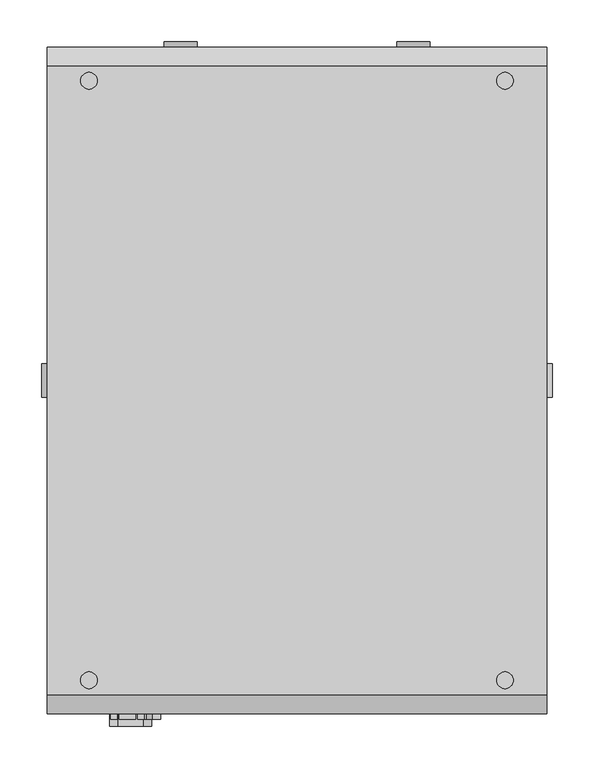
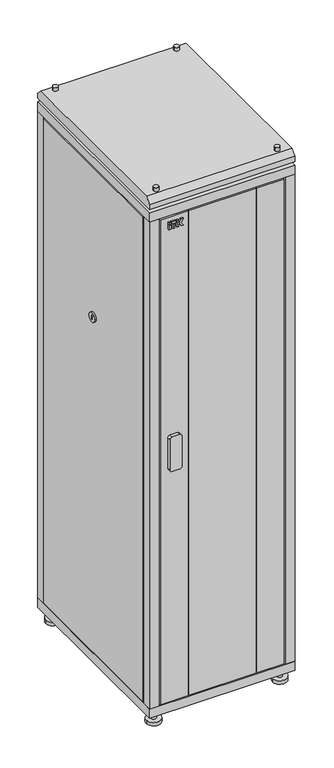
"""IFC4 building model written with IfcOpenShell, lengths in millimetres: proxy geometry, Шкафы ITK серия N_05 : LN05-47U68-G."""

from ifc_helpers import new_model, si_unit, point, frame, frame_2d, origin, origin_with_axes, place, context, project, spatial, polyline, circle_curve, trimmed, segment, composite_curve, outline, extrude, faceted_brep, source, transform, mapped, element, save
from ifc_brep_helpers import plane_surface, cylinder_surface, advanced_brep


def electrical_fixtures_ca1bb77e(model_context):
    return source(origin(), model_context, "Body", "SolidModel", [
        extrude(outline(polyline([(-215.9746193, -407.0), (-224.197592, -407.0), (-224.197592, -400.0), (-215.9746193, -400.0), (-215.9746193, -407.0)])), frame((0.0, 0.0, 2157.0), z_axis=(0.0, 0.0, 1.0), x_axis=(1.0, 0.0, 0.0)), (0.0, 0.0, 1.0), 18.8087618),
        extrude(outline(polyline([(-199.9605777, -407.0), (-207.7053315, -407.0), (-207.7053315, -400.0), (-199.9605777, -400.0), (-199.9605777, -407.0)])), frame((0.0, 0.0, 2157.0), z_axis=(0.0, 0.0, 1.0), x_axis=(1.0, 0.0, 0.0)), (0.0, 0.0, 1.0), 18.8087618),
        extrude(outline(polyline([(-215.9746193, -407.0), (-224.197592, -407.0), (-224.197592, -400.0), (-215.9746193, -400.0), (-215.9746193, -407.0)])), frame((0.0, 0.0, 2178.4305892), z_axis=(0.0, 0.0, 1.0), x_axis=(1.0, 0.0, 0.0)), (0.0, 0.0, 1.0), 7.9794747),
        extrude(outline(polyline([(2157.0, -191.5184175), (2157.0, -183.7669278), (2168.0271455, -183.7669278), (2168.0271455, -180.8031229), (2157.0, -173.6420108), (2157.0, -164.197592), (2171.7278745, -174.8980192), (2186.410064, -164.197592), (2186.410064, -173.6420108), (2175.3829184, -180.8031229), (2175.3829184, -183.7669278), (2186.410064, -183.7669278), (2186.410064, -191.5184175), (2157.0, -191.5184175)])), frame((0.0, -407.0, 0.0), z_axis=(0.0, 1.0, 0.0), x_axis=(0.0, 0.0, 1.0)), (0.0, 0.0, 1.0), 7.0),
        extrude(outline(polyline([(-194.0851324, -407.0), (-213.5807768, -407.0), (-213.5807768, -400.0), (-194.0851324, -400.0), (-194.0851324, -407.0)])), frame((0.0, 0.0, 2178.4305892), z_axis=(0.0, 0.0, 1.0), x_axis=(1.0, 0.0, 0.0)), (0.0, 0.0, 1.0), 7.9794747),
        extrude(outline(composite_curve([segment(polyline([(1256.0, -185.0), (1256.0, -215.0)]), True, "CONTINUOUS"), segment(trimmed(circle_curve(frame_2d((1246.0, -215.0)), 10.0), [point((1256.0, -215.0))], [point((1246.0, -225.0))], False, "CARTESIAN"), True, "CONTINUOUS"), segment(polyline([(1246.0, -225.0), (1116.0, -225.0)]), True, "CONTINUOUS"), segment(trimmed(circle_curve(frame_2d((1116.0, -215.0)), 10.0), [point((1116.0, -225.0))], [point((1106.0, -215.0))], False, "CARTESIAN"), True, "CONTINUOUS"), segment(polyline([(1106.0, -215.0), (1106.0, -185.0)]), True, "CONTINUOUS"), segment(trimmed(circle_curve(frame_2d((1116.0, -185.0)), 10.0), [point((1106.0, -185.0))], [point((1116.0, -175.0))], False, "CARTESIAN"), True, "CONTINUOUS"), segment(polyline([(1116.0, -175.0), (1246.0, -175.0)]), True, "CONTINUOUS"), segment(trimmed(circle_curve(frame_2d((1246.0, -185.0)), 10.0), [point((1246.0, -175.0))], [point((1256.0, -185.0))], False, "CARTESIAN"), True, "CONTINUOUS")], self_intersect=False)), frame((0.0, -415.0, 0.0), z_axis=(0.0, 1.0, 0.0), x_axis=(0.0, 0.0, 1.0)), (0.0, 0.0, 1.0), 15.0),
        extrude(outline(polyline([(140.0, -380.0), (140.0, -400.0), (-140.0, -400.0), (-140.0, -380.0), (140.0, -380.0)])), frame((0.0, 0.0, 95.0), z_axis=(0.0, 0.0, 1.0), x_axis=(1.0, 0.0, 0.0)), (0.0, 0.0, 1.0), 2112.0),
        extrude(outline(polyline([(255.0, -380.0), (255.0, -400.0), (140.0, -400.0), (140.0, -380.0), (235.0, -380.0), (235.0, -365.0), (245.0, -365.0), (245.0, -380.0), (255.0, -380.0)])), frame((0.0, 0.0, 95.0), z_axis=(0.0, 0.0, 1.0), x_axis=(1.0, 0.0, 0.0)), (0.0, 0.0, 1.0), 2112.0),
        extrude(outline(polyline([(-140.0, -400.0), (-255.0, -400.0), (-255.0, -380.0), (-245.0, -380.0), (-245.0, -365.0), (-235.0, -365.0), (-235.0, -380.0), (-140.0, -380.0), (-140.0, -400.0)])), frame((0.0, 0.0, 95.0), z_axis=(0.0, 0.0, 1.0), x_axis=(1.0, 0.0, 0.0)), (0.0, 0.0, 1.0), 2112.0),
        extrude(outline(composite_curve([segment(trimmed(circle_curve(frame_2d((-260.0, 360.0)), 10.0), [point((-250.0, 360.0))], [point((-270.0, 360.0))], False, "CARTESIAN"), True, "CONTINUOUS"), segment(trimmed(circle_curve(frame_2d((-260.0, 360.0)), 10.0), [point((-270.0, 360.0))], [point((-250.0, 360.0))], False, "CARTESIAN"), True, "CONTINUOUS")], self_intersect=False)), frame((0.0, 0.0, 15.0), z_axis=(0.0, 0.0, 1.0), x_axis=(1.0, 0.0, 0.0)), (0.0, 0.0, 1.0), 35.0),
        extrude(outline(composite_curve([segment(trimmed(circle_curve(frame_2d((260.0, 360.0)), 10.0), [point((270.0, 360.0))], [point((250.0, 360.0))], False, "CARTESIAN"), True, "CONTINUOUS"), segment(trimmed(circle_curve(frame_2d((260.0, 360.0)), 10.0), [point((250.0, 360.0))], [point((270.0, 360.0))], False, "CARTESIAN"), True, "CONTINUOUS")], self_intersect=False)), frame((0.0, 0.0, 15.0), z_axis=(0.0, 0.0, 1.0), x_axis=(1.0, 0.0, 0.0)), (0.0, 0.0, 1.0), 35.0),
        extrude(outline(composite_curve([segment(trimmed(circle_curve(frame_2d((-260.0, -360.0)), 10.0), [point((-250.0, -360.0))], [point((-270.0, -360.0))], False, "CARTESIAN"), True, "CONTINUOUS"), segment(trimmed(circle_curve(frame_2d((-260.0, -360.0)), 10.0), [point((-270.0, -360.0))], [point((-250.0, -360.0))], False, "CARTESIAN"), True, "CONTINUOUS")], self_intersect=False)), frame((0.0, 0.0, 15.0), z_axis=(0.0, 0.0, 1.0), x_axis=(1.0, 0.0, 0.0)), (0.0, 0.0, 1.0), 35.0),
        extrude(outline(composite_curve([segment(trimmed(circle_curve(frame_2d((260.0, -360.0)), 10.0), [point((270.0, -360.0))], [point((250.0, -360.0))], False, "CARTESIAN"), True, "CONTINUOUS"), segment(trimmed(circle_curve(frame_2d((260.0, -360.0)), 10.0), [point((250.0, -360.0))], [point((270.0, -360.0))], False, "CARTESIAN"), True, "CONTINUOUS")], self_intersect=False)), frame((0.0, 0.0, 15.0), z_axis=(0.0, 0.0, 1.0), x_axis=(1.0, 0.0, 0.0)), (0.0, 0.0, 1.0), 35.0),
        extrude(outline(composite_curve([segment(trimmed(circle_curve(frame_2d((-260.0, 360.0)), 30.0), [point((-230.0, 360.0))], [point((-290.0, 360.0))], False, "CARTESIAN"), True, "CONTINUOUS"), segment(trimmed(circle_curve(frame_2d((-260.0, 360.0)), 30.0), [point((-290.0, 360.0))], [point((-230.0, 360.0))], False, "CARTESIAN"), True, "CONTINUOUS")], self_intersect=False)), origin_with_axes(), (0.0, 0.0, 1.0), 15.0),
        extrude(outline(composite_curve([segment(trimmed(circle_curve(frame_2d((260.0, 360.0)), 30.0), [point((290.0, 360.0))], [point((230.0, 360.0))], False, "CARTESIAN"), True, "CONTINUOUS"), segment(trimmed(circle_curve(frame_2d((260.0, 360.0)), 30.0), [point((230.0, 360.0))], [point((290.0, 360.0))], False, "CARTESIAN"), True, "CONTINUOUS")], self_intersect=False)), origin_with_axes(), (0.0, 0.0, 1.0), 15.0),
        extrude(outline(composite_curve([segment(trimmed(circle_curve(frame_2d((-260.0, -360.0)), 30.0), [point((-230.0, -360.0))], [point((-290.0, -360.0))], False, "CARTESIAN"), True, "CONTINUOUS"), segment(trimmed(circle_curve(frame_2d((-260.0, -360.0)), 30.0), [point((-290.0, -360.0))], [point((-230.0, -360.0))], False, "CARTESIAN"), True, "CONTINUOUS")], self_intersect=False)), origin_with_axes(), (0.0, 0.0, 1.0), 15.0),
        extrude(outline(composite_curve([segment(trimmed(circle_curve(frame_2d((260.0, -360.0)), 30.0), [point((290.0, -360.0))], [point((230.0, -360.0))], False, "CARTESIAN"), True, "CONTINUOUS"), segment(trimmed(circle_curve(frame_2d((260.0, -360.0)), 30.0), [point((230.0, -360.0))], [point((290.0, -360.0))], False, "CARTESIAN"), True, "CONTINUOUS")], self_intersect=False)), origin_with_axes(), (0.0, 0.0, 1.0), 15.0),
        advanced_brep(
        [(260.0, 360.0, 2327.0), (240.0, 360.0, 2327.0), (260.0, -360.0, 2327.0), (240.0, -360.0, 2327.0), (-240.0, 360.0, 2327.0), (-260.0, 360.0, 2327.0), (-240.0, -360.0, 2327.0), (-260.0, -360.0, 2327.0), (260.0, 360.0, 2252.0), (240.0, 360.0, 2252.0), (260.0, -360.0, 2252.0), (240.0, -360.0, 2252.0), (-240.0, 360.0, 2252.0), (-260.0, 360.0, 2252.0), (-240.0, -360.0, 2252.0), (-260.0, -360.0, 2252.0), (260.0, 360.0, 2312.0), (240.0, 360.0, 2312.0), (240.0, 360.0, 2267.0), (260.0, 360.0, 2267.0), (260.0, -360.0, 2312.0), (240.0, -360.0, 2312.0), (240.0, -360.0, 2267.0), (260.0, -360.0, 2267.0), (-240.0, 360.0, 2312.0), (-260.0, 360.0, 2312.0), (-260.0, 360.0, 2267.0), (-240.0, 360.0, 2267.0), (-240.0, -360.0, 2312.0), (-260.0, -360.0, 2312.0), (-260.0, -360.0, 2267.0), (-240.0, -360.0, 2267.0), (300.0, 377.5, 2312.0), (300.0, -377.5, 2312.0), (300.0, -400.0, 2289.5), (300.0, -400.0, 2267.0), (300.0, 400.0, 2267.0), (300.0, 400.0, 2289.5), (-300.0, 377.5, 2312.0), (-300.0, 400.0, 2289.5), (-300.0, 400.0, 2267.0), (-300.0, -400.0, 2267.0), (-300.0, -400.0, 2289.5), (-300.0, -377.5, 2312.0)],
        [
            (0, 1, circle_curve(frame((250.0, 360.0, 2327.0), z_axis=(0.0, 0.0, 1.0), x_axis=(-1.0, 0.0, 0.0)), 10.0)),
            (1, 0, circle_curve(frame((250.0, 360.0, 2327.0), z_axis=(0.0, 0.0, 1.0), x_axis=(-1.0, 0.0, 0.0)), 10.0)),
            (2, 3, circle_curve(frame((250.0, -360.0, 2327.0), z_axis=(0.0, 0.0, 1.0), x_axis=(-1.0, 0.0, 0.0)), 10.0)),
            (3, 2, circle_curve(frame((250.0, -360.0, 2327.0), z_axis=(0.0, 0.0, 1.0), x_axis=(-1.0, 0.0, 0.0)), 10.0)),
            (4, 5, circle_curve(frame((-250.0, 360.0, 2327.0), z_axis=(0.0, 0.0, 1.0), x_axis=(-1.0, 0.0, 0.0)), 10.0)),
            (5, 4, circle_curve(frame((-250.0, 360.0, 2327.0), z_axis=(0.0, 0.0, 1.0), x_axis=(-1.0, 0.0, 0.0)), 10.0)),
            (6, 7, circle_curve(frame((-250.0, -360.0, 2327.0), z_axis=(0.0, 0.0, 1.0), x_axis=(-1.0, 0.0, 0.0)), 10.0)),
            (7, 6, circle_curve(frame((-250.0, -360.0, 2327.0), z_axis=(0.0, 0.0, 1.0), x_axis=(-1.0, 0.0, 0.0)), 10.0)),
            (8, 9, circle_curve(frame((250.0, 360.0, 2252.0), z_axis=(0.0, 0.0, -1.0), x_axis=(-1.0, 0.0, 0.0)), 10.0)),
            (9, 8, circle_curve(frame((250.0, 360.0, 2252.0), z_axis=(0.0, 0.0, -1.0), x_axis=(-1.0, 0.0, 0.0)), 10.0)),
            (10, 11, circle_curve(frame((250.0, -360.0, 2252.0), z_axis=(0.0, 0.0, -1.0), x_axis=(-1.0, 0.0, 0.0)), 10.0)),
            (11, 10, circle_curve(frame((250.0, -360.0, 2252.0), z_axis=(0.0, 0.0, -1.0), x_axis=(-1.0, 0.0, 0.0)), 10.0)),
            (12, 13, circle_curve(frame((-250.0, 360.0, 2252.0), z_axis=(0.0, 0.0, -1.0), x_axis=(-1.0, 0.0, 0.0)), 10.0)),
            (13, 12, circle_curve(frame((-250.0, 360.0, 2252.0), z_axis=(0.0, 0.0, -1.0), x_axis=(-1.0, 0.0, 0.0)), 10.0)),
            (14, 15, circle_curve(frame((-250.0, -360.0, 2252.0), z_axis=(0.0, 0.0, -1.0), x_axis=(-1.0, 0.0, 0.0)), 10.0)),
            (15, 14, circle_curve(frame((-250.0, -360.0, 2252.0), z_axis=(0.0, 0.0, -1.0), x_axis=(-1.0, 0.0, 0.0)), 10.0)),
            (0, 16),
            (16, 17, circle_curve(frame((250.0, 360.0, 2312.0), z_axis=(0.0, 0.0, 1.0), x_axis=(-1.0, 0.0, 0.0)), 10.0)),
            (17, 1),
            (9, 18),
            (18, 19, circle_curve(frame((250.0, 360.0, 2267.0), z_axis=(0.0, 0.0, -1.0), x_axis=(-1.0, 0.0, 0.0)), 10.0)),
            (19, 8),
            (17, 16, circle_curve(frame((250.0, 360.0, 2312.0), z_axis=(0.0, 0.0, 1.0), x_axis=(-1.0, 0.0, 0.0)), 10.0)),
            (19, 18, circle_curve(frame((250.0, 360.0, 2267.0), z_axis=(0.0, 0.0, -1.0), x_axis=(-1.0, 0.0, 0.0)), 10.0)),
            (2, 20),
            (20, 21, circle_curve(frame((250.0, -360.0, 2312.0), z_axis=(0.0, 0.0, 1.0), x_axis=(-1.0, 0.0, 0.0)), 10.0)),
            (21, 3),
            (11, 22),
            (22, 23, circle_curve(frame((250.0, -360.0, 2267.0), z_axis=(0.0, 0.0, -1.0), x_axis=(-1.0, 0.0, 0.0)), 10.0)),
            (23, 10),
            (21, 20, circle_curve(frame((250.0, -360.0, 2312.0), z_axis=(0.0, 0.0, 1.0), x_axis=(-1.0, 0.0, 0.0)), 10.0)),
            (23, 22, circle_curve(frame((250.0, -360.0, 2267.0), z_axis=(0.0, 0.0, -1.0), x_axis=(-1.0, 0.0, 0.0)), 10.0)),
            (4, 24),
            (24, 25, circle_curve(frame((-250.0, 360.0, 2312.0), z_axis=(0.0, 0.0, 1.0), x_axis=(-1.0, 0.0, 0.0)), 10.0)),
            (25, 5),
            (13, 26),
            (26, 27, circle_curve(frame((-250.0, 360.0, 2267.0), z_axis=(0.0, 0.0, -1.0), x_axis=(-1.0, 0.0, 0.0)), 10.0)),
            (27, 12),
            (25, 24, circle_curve(frame((-250.0, 360.0, 2312.0), z_axis=(0.0, 0.0, 1.0), x_axis=(-1.0, 0.0, 0.0)), 10.0)),
            (27, 26, circle_curve(frame((-250.0, 360.0, 2267.0), z_axis=(0.0, 0.0, -1.0), x_axis=(-1.0, 0.0, 0.0)), 10.0)),
            (6, 28),
            (28, 29, circle_curve(frame((-250.0, -360.0, 2312.0), z_axis=(0.0, 0.0, 1.0), x_axis=(-1.0, 0.0, 0.0)), 10.0)),
            (29, 7),
            (15, 30),
            (30, 31, circle_curve(frame((-250.0, -360.0, 2267.0), z_axis=(0.0, 0.0, -1.0), x_axis=(-1.0, 0.0, 0.0)), 10.0)),
            (31, 14),
            (29, 28, circle_curve(frame((-250.0, -360.0, 2312.0), z_axis=(0.0, 0.0, 1.0), x_axis=(-1.0, 0.0, 0.0)), 10.0)),
            (31, 30, circle_curve(frame((-250.0, -360.0, 2267.0), z_axis=(0.0, 0.0, -1.0), x_axis=(-1.0, 0.0, 0.0)), 10.0)),
            (32, 33),
            (33, 34),
            (34, 35),
            (35, 36),
            (36, 37),
            (37, 32),
            (38, 39),
            (39, 40),
            (40, 41),
            (41, 42),
            (42, 43),
            (43, 38),
            (32, 38),
            (43, 33),
            (42, 34),
            (41, 35),
            (40, 36),
            (39, 37),
        ],
        [
            plane_surface(frame((240.0, 360.0, 2327.0), z_axis=(0.0, 0.0, 1.0), x_axis=(0.0, -1.0, 0.0))),
            plane_surface(frame((240.0, 360.0, 2252.0), z_axis=(0.0, 0.0, -1.0), x_axis=(0.0, 1.0, 0.0))),
            cylinder_surface(frame((250.0, 360.0, 2252.0), z_axis=(0.0, 0.0, 1.0), x_axis=(-1.0, 0.0, 0.0)), 10.0),
            cylinder_surface(frame((250.0, -360.0, 1710.0), z_axis=(0.0, 0.0, 1.0), x_axis=(-1.0, 0.0, 0.0)), 10.0),
            cylinder_surface(frame((-250.0, 360.0, 1710.0), z_axis=(0.0, 0.0, 1.0), x_axis=(-1.0, 0.0, 0.0)), 10.0),
            cylinder_surface(frame((-250.0, -360.0, 1710.0), z_axis=(0.0, 0.0, 1.0), x_axis=(-1.0, 0.0, 0.0)), 10.0),
            plane_surface(frame((300.0, -377.5, 2312.0), z_axis=(1.0, 0.0, 0.0), x_axis=(0.0, -1.0, 0.0))),
            plane_surface(frame((-300.0, -377.5, 2312.0), z_axis=(-1.0, 0.0, 0.0), x_axis=(0.0, 1.0, 0.0))),
            plane_surface(frame((300.0, 377.5, 2312.0), z_axis=(0.0, 0.0, 1.0), x_axis=(-1.0, 0.0, 0.0))),
            plane_surface(frame((300.0, -377.5, 2312.0), z_axis=(0.0, -0.7071067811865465, 0.7071067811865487), x_axis=(-1.0, 0.0, 0.0))),
            plane_surface(frame((300.0, -400.0, 2289.5), z_axis=(0.0, -1.0, 0.0), x_axis=(-1.0, 0.0, 0.0))),
            plane_surface(frame((300.0, -400.0, 2267.0), z_axis=(0.0, 0.0, -1.0), x_axis=(-1.0, 0.0, 0.0))),
            plane_surface(frame((300.0, 400.0, 2267.0), z_axis=(0.0, 1.0, 0.0), x_axis=(-1.0, 0.0, 0.0))),
            plane_surface(frame((300.0, 400.0, 2289.5), z_axis=(0.0, 0.7071067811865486, 0.7071067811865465), x_axis=(-1.0, 0.0, 0.0))),
        ],
        [
            (0, [[1, 2]]),
            (0, [[3, 4]]),
            (0, [[5, 6]]),
            (0, [[7, 8]]),
            (1, [[9, 10]]),
            (1, [[11, 12]]),
            (1, [[13, 14]]),
            (1, [[15, 16]]),
            (2, [[-1, 17, 18, 19]]),
            (2, [[-10, 20, 21, 22]]),
            (2, [[-2, -19, 23, -17]]),
            (2, [[-9, -22, 24, -20]]),
            (3, [[-3, 25, 26, 27]]),
            (3, [[-12, 28, 29, 30]]),
            (3, [[-4, -27, 31, -25]]),
            (3, [[-11, -30, 32, -28]]),
            (4, [[-5, 33, 34, 35]]),
            (4, [[-14, 36, 37, 38]]),
            (4, [[-6, -35, 39, -33]]),
            (4, [[-13, -38, 40, -36]]),
            (5, [[-7, 41, 42, 43]]),
            (5, [[-16, 44, 45, 46]]),
            (5, [[-8, -43, 47, -41]]),
            (5, [[-15, -46, 48, -44]]),
            (6, [[49, 50, 51, 52, 53, 54]]),
            (7, [[55, 56, 57, 58, 59, 60]]),
            (8, [[-49, 61, -60, 62], [-18, -23], [-26, -31], [-34, -39], [-42, -47]]),
            (9, [[-50, -62, -59, 63]]),
            (10, [[-51, -63, -58, 64]]),
            (11, [[-52, -64, -57, 65], [-21, -24], [-29, -32], [-37, -40], [-45, -48]]),
            (12, [[-53, -65, -56, 66]]),
            (13, [[-54, -66, -55, -61]]),
        ],
    ),
        extrude(outline(polyline([(260.0, 360.0), (260.0, 345.0), (290.0, 345.0), (290.0, -345.0), (260.0, -345.0), (260.0, -360.0), (245.0, -360.0), (245.0, -380.0), (-245.0, -380.0), (-245.0, -360.0), (-260.0, -360.0), (-260.0, -345.0), (-290.0, -345.0), (-290.0, 345.0), (-260.0, 345.0), (-260.0, 360.0), (-245.0, 360.0), (-245.0, 390.0), (245.0, 390.0), (245.0, 360.0), (260.0, 360.0)])), frame((0.0, 0.0, 90.0), z_axis=(0.0, 0.0, 1.0), x_axis=(1.0, 0.0, 0.0)), (0.0, 0.0, 1.0), 5.0),
        extrude(outline(polyline([(260.0, 360.0), (260.0, 345.0), (290.0, 345.0), (290.0, -345.0), (260.0, -345.0), (260.0, -360.0), (245.0, -360.0), (245.0, -380.0), (-245.0, -380.0), (-245.0, -360.0), (-260.0, -360.0), (-260.0, -345.0), (-290.0, -345.0), (-290.0, 345.0), (-260.0, 345.0), (-260.0, 360.0), (-245.0, 360.0), (-245.0, 390.0), (245.0, 390.0), (245.0, 360.0), (260.0, 360.0)])), frame((0.0, 0.0, 2207.0), z_axis=(0.0, 0.0, 1.0), x_axis=(1.0, 0.0, 0.0)), (0.0, 0.0, 1.0), 5.0),
        extrude(outline(polyline([(300.0, -400.0), (-300.0, -400.0), (-300.0, 400.0), (300.0, 400.0), (300.0, -400.0)])), frame((0.0, 0.0, 2212.0), z_axis=(0.0, 0.0, 1.0), x_axis=(1.0, 0.0, 0.0)), (0.0, 0.0, 1.0), 40.0),
        extrude(outline(polyline([(300.0, -400.0), (-300.0, -400.0), (-300.0, 400.0), (300.0, 400.0), (300.0, -400.0)])), frame((0.0, 0.0, 50.0), z_axis=(0.0, 0.0, 1.0), x_axis=(1.0, 0.0, 0.0)), (0.0, 0.0, 1.0), 40.0),
        extrude(outline(composite_curve([segment(trimmed(circle_curve(frame_2d((1151.0, 140.0)), 20.0), [point((1151.0, 160.0))], [point((1151.0, 120.0))], False, "CARTESIAN"), True, "CONTINUOUS"), segment(trimmed(circle_curve(frame_2d((1151.0, 140.0)), 20.0), [point((1151.0, 120.0))], [point((1151.0, 160.0))], False, "CARTESIAN"), True, "CONTINUOUS")], self_intersect=False), holes=[polyline([(1142.7814397, 137.0), (1159.2185603, 137.0), (1159.2185603, 143.0), (1142.7814397, 143.0), (1142.7814397, 137.0)])]), frame((0.0, 400.0, 0.0), z_axis=(0.0, 1.0, 0.0), x_axis=(0.0, 0.0, 1.0)), (0.0, 0.0, 1.0), 7.0),
        extrude(outline(composite_curve([segment(trimmed(circle_curve(frame_2d((1151.0, -140.0)), 20.0), [point((1151.0, -120.0))], [point((1151.0, -160.0))], False, "CARTESIAN"), True, "CONTINUOUS"), segment(trimmed(circle_curve(frame_2d((1151.0, -140.0)), 20.0), [point((1151.0, -160.0))], [point((1151.0, -120.0))], False, "CARTESIAN"), True, "CONTINUOUS")], self_intersect=False), holes=[polyline([(1142.7814397, -143.0), (1159.2185603, -143.0), (1159.2185603, -137.0), (1142.7814397, -137.0), (1142.7814397, -143.0)])]), frame((0.0, 400.0, 0.0), z_axis=(0.0, 1.0, 0.0), x_axis=(0.0, 0.0, 1.0)), (0.0, 0.0, 1.0), 7.0),
        faceted_brep([(255.0, 400.0, 2207.0), (-255.0, 400.0, 2207.0), (-255.0, 370.0, 2207.0), (-245.0, 370.0, 2207.0), (-245.0, 390.0, 2207.0), (245.0, 390.0, 2207.0), (245.0, 370.0, 2207.0), (255.0, 370.0, 2207.0), (255.0, 400.0, 2034.5265979), (-255.0, 400.0, 2034.5265979), (175.0, 400.0, 2082.0), (175.0, 400.0, 2162.0), (-175.0, 400.0, 2162.0), (-175.0, 400.0, 2082.0), (-255.0, 370.0, 2034.5265979), (-245.0, 370.0, 2034.5265979), (-245.0, 390.0, 2034.5265979), (245.0, 390.0, 2034.5265979), (175.0, 390.0, 2162.0), (175.0, 390.0, 2082.0), (-175.0, 390.0, 2082.0), (-175.0, 390.0, 2162.0), (245.0, 370.0, 2034.5265979), (255.0, 370.0, 2034.5265979)], [[[0, 1, 2, 3, 4, 5, 6, 7]], [[1, 0, 8, 9], [10, 11, 12, 13]], [[2, 1, 9, 14]], [[3, 2, 14, 15]], [[4, 3, 15, 16]], [[5, 4, 16, 17], [18, 19, 20, 21]], [[6, 5, 17, 22]], [[7, 6, 22, 23]], [[0, 7, 23, 8]], [[9, 8, 23, 22, 17, 16, 15, 14]], [[10, 19, 18, 11]], [[11, 18, 21, 12]], [[12, 21, 20, 13]], [[19, 10, 13, 20]]]),
        faceted_brep([(255.0, 400.0, 95.0), (255.0, 370.0, 95.0), (245.0, 370.0, 95.0), (245.0, 390.0, 95.0), (-245.0, 390.0, 95.0), (-245.0, 370.0, 95.0), (-255.0, 370.0, 95.0), (-255.0, 400.0, 95.0), (-255.0, 400.0, 267.4734021), (255.0, 400.0, 267.4734021), (175.0, 400.0, 220.0), (-175.0, 400.0, 220.0), (-175.0, 400.0, 140.0), (175.0, 400.0, 140.0), (-255.0, 370.0, 267.4734021), (-245.0, 370.0, 267.4734021), (-245.0, 390.0, 267.4734021), (245.0, 390.0, 267.4734021), (-175.0, 390.0, 220.0), (175.0, 390.0, 220.0), (175.0, 390.0, 140.0), (-175.0, 390.0, 140.0), (245.0, 370.0, 267.4734021), (255.0, 370.0, 267.4734021)], [[[0, 1, 2, 3, 4, 5, 6, 7]], [[0, 7, 8, 9], [10, 11, 12, 13]], [[7, 6, 14, 8]], [[6, 5, 15, 14]], [[5, 4, 16, 15]], [[4, 3, 17, 16], [18, 19, 20, 21]], [[3, 2, 22, 17]], [[2, 1, 23, 22]], [[1, 0, 9, 23]], [[9, 8, 14, 15, 16, 17, 22, 23]], [[10, 19, 18, 11]], [[11, 18, 21, 12]], [[12, 21, 20, 13]], [[19, 10, 13, 20]]]),
        faceted_brep([(255.0, 400.0, 2029.4734021), (255.0, 400.0, 272.5265979), (-255.0, 400.0, 272.5265979), (-255.0, 400.0, 2029.4734021), (-255.0, 370.0, 272.5265979), (-255.0, 370.0, 2029.4734021), (-245.0, 370.0, 272.5265979), (-245.0, 370.0, 2029.4734021), (-245.0, 390.0, 272.5265979), (-245.0, 390.0, 2029.4734021), (245.0, 390.0, 272.5265979), (245.0, 390.0, 2029.4734021), (245.0, 370.0, 272.5265979), (245.0, 370.0, 2029.4734021), (255.0, 370.0, 272.5265979), (255.0, 370.0, 2029.4734021)], [[[0, 1, 2, 3]], [[3, 2, 4, 5]], [[5, 4, 6, 7]], [[7, 6, 8, 9]], [[9, 8, 10, 11]], [[11, 10, 12, 13]], [[13, 12, 14, 15]], [[1, 0, 15, 14]], [[2, 1, 14, 12, 10, 8, 6, 4]], [[0, 3, 5, 7, 9, 11, 13, 15]]]),
        faceted_brep([(-170.0, 400.0, 215.0), (170.0, 400.0, 215.0), (170.0, 400.0, 145.0), (-170.0, 400.0, 145.0), (170.0, 390.0, 215.0), (-170.0, 390.0, 215.0), (-170.0, 390.0, 145.0), (170.0, 390.0, 145.0)], [[[0, 1, 2, 3]], [[4, 5, 6, 7]], [[0, 5, 4, 1]], [[1, 4, 7, 2]], [[2, 7, 6, 3]], [[5, 0, 3, 6]]]),
        faceted_brep([(-170.0, 400.0, 2087.0), (-170.0, 400.0, 2157.0), (170.0, 400.0, 2157.0), (170.0, 400.0, 2087.0), (-170.0, 390.0, 2157.0), (-170.0, 390.0, 2087.0), (170.0, 390.0, 2087.0), (170.0, 390.0, 2157.0)], [[[0, 1, 2, 3]], [[4, 5, 6, 7]], [[0, 5, 4, 1]], [[1, 4, 7, 2]], [[2, 7, 6, 3]], [[5, 0, 3, 6]]]),
        extrude(outline(composite_curve([segment(trimmed(circle_curve(frame_2d((0.0, 1558.0)), 20.0), [point((-20.0, 1558.0))], [point((20.0, 1558.0))], False, "CARTESIAN"), True, "CONTINUOUS"), segment(trimmed(circle_curve(frame_2d((0.0, 1558.0)), 20.0), [point((20.0, 1558.0))], [point((-20.0, 1558.0))], False, "CARTESIAN"), True, "CONTINUOUS")], self_intersect=False), holes=[polyline([(3.0, 1549.7814397), (3.0, 1566.2185603), (-3.0, 1566.2185603), (-3.0, 1549.7814397), (3.0, 1549.7814397)])]), frame((300.0, 0.0, 0.0), z_axis=(1.0, 0.0, 0.0), x_axis=(0.0, 1.0, 0.0)), (0.0, 0.0, 1.0), 7.0),
        extrude(outline(composite_curve([segment(trimmed(circle_curve(frame_2d((0.0, 1558.0)), 20.0), [point((20.0, 1558.0))], [point((-20.0, 1558.0))], False, "CARTESIAN"), True, "CONTINUOUS"), segment(trimmed(circle_curve(frame_2d((0.0, 1558.0)), 20.0), [point((-20.0, 1558.0))], [point((20.0, 1558.0))], False, "CARTESIAN"), True, "CONTINUOUS")], self_intersect=False), holes=[polyline([(-3.0, 1549.7814397), (3.0, 1549.7814397), (3.0, 1566.2185603), (-3.0, 1566.2185603), (-3.0, 1549.7814397)])]), frame((-307.0, 0.0, 0.0), z_axis=(1.0, 0.0, 0.0), x_axis=(0.0, 1.0, 0.0)), (0.0, 0.0, 1.0), 7.0),
        extrude(outline(polyline([(-270.0, 355.0), (-270.0, 345.0), (-289.9803177, 345.0), (-289.9803177, -345.0), (-269.9803177, -345.0), (-269.9803177, -355.0), (-300.0, -355.0), (-300.0, 355.0), (-270.0, 355.0)])), frame((0.0, 0.0, 95.0), z_axis=(0.0, 0.0, 1.0), x_axis=(1.0, 0.0, 0.0)), (0.0, 0.0, 1.0), 2112.0),
        extrude(outline(polyline([(269.9803177, 355.0), (300.0, 355.0), (300.0, -355.0), (269.9803177, -355.0), (269.9803177, -345.0), (289.9803177, -345.0), (289.9803177, 345.0), (269.9803177, 345.0), (269.9803177, 355.0)])), frame((0.0, 0.0, 95.0), z_axis=(0.0, 0.0, 1.0), x_axis=(1.0, 0.0, 0.0)), (0.0, 0.0, 1.0), 2112.0),
        extrude(outline(polyline([(-270.0, -360.0), (-270.0, -345.0), (-260.0, -345.0), (-260.0, -360.0), (-245.0, -360.0), (-245.0, -380.0), (-260.0, -380.0), (-260.0, -400.0), (-300.0, -400.0), (-300.0, -360.0), (-270.0, -360.0)]), holes=[polyline([(-267.0, -363.0), (-297.0, -363.0), (-297.0, -397.0), (-263.0, -397.0), (-263.0, -377.0), (-248.0, -377.0), (-248.0, -363.0), (-263.0, -363.0), (-263.0, -348.0), (-267.0, -348.0), (-267.0, -363.0)])]), frame((0.0, 0.0, 90.0), z_axis=(0.0, 0.0, 1.0), x_axis=(1.0, 0.0, 0.0)), (0.0, 0.0, 1.0), 2122.0),
        extrude(outline(polyline([(270.0, -360.0), (300.0, -360.0), (300.0, -400.0), (260.0, -400.0), (260.0, -380.0), (245.0, -380.0), (245.0, -360.0), (260.0, -360.0), (260.0, -345.0), (270.0, -345.0), (270.0, -360.0)]), holes=[polyline([(297.0, -397.0), (297.0, -363.0), (267.0, -363.0), (267.0, -348.0), (263.0, -348.0), (263.0, -363.0), (248.0, -363.0), (248.0, -377.0), (263.0, -377.0), (263.0, -397.0), (297.0, -397.0)])]), frame((0.0, 0.0, 90.0), z_axis=(0.0, 0.0, 1.0), x_axis=(1.0, 0.0, 0.0)), (0.0, 0.0, 1.0), 2122.0),
        extrude(outline(polyline([(270.0, 360.0), (270.0, 345.0), (260.0, 345.0), (260.0, 360.0), (245.0, 360.0), (245.0, 370.0), (260.0, 370.0), (260.0, 400.0), (300.0, 400.0), (300.0, 360.0), (270.0, 360.0)]), holes=[polyline([(297.0, 363.0), (297.0, 397.0), (263.0, 397.0), (263.0, 367.0), (248.0, 367.0), (248.0, 363.0), (263.0, 363.0), (263.0, 348.0), (267.0, 348.0), (267.0, 363.0), (297.0, 363.0)])]), frame((0.0, 0.0, 90.0), z_axis=(0.0, 0.0, 1.0), x_axis=(1.0, 0.0, 0.0)), (0.0, 0.0, 1.0), 2122.0),
        extrude(outline(polyline([(-270.0, 360.0), (-300.0, 360.0), (-300.0, 400.0), (-260.0, 400.0), (-260.0, 370.0), (-245.0, 370.0), (-245.0, 360.0), (-260.0, 360.0), (-260.0, 345.0), (-270.0, 345.0), (-270.0, 360.0)]), holes=[polyline([(-297.0, 397.0), (-297.0, 363.0), (-267.0, 363.0), (-267.0, 348.0), (-263.0, 348.0), (-263.0, 363.0), (-248.0, 363.0), (-248.0, 367.0), (-263.0, 367.0), (-263.0, 397.0), (-297.0, 397.0)])]), frame((0.0, 0.0, 90.0), z_axis=(0.0, 0.0, 1.0), x_axis=(1.0, 0.0, 0.0)), (0.0, 0.0, 1.0), 2122.0),
    ])


if __name__ == "__main__":
    model = new_model("IFC4")
    model_context = context("Model", 3, world=origin())
    ifc_project = project(units=[si_unit("LENGTHUNIT", "METRE", prefix="MILLI")], contexts=[model_context])
    site = spatial("IfcSite", under=ifc_project)
    building = spatial("IfcBuilding", under=site)
    placement = place(None, origin())
    electrical_fixtures_shape = electrical_fixtures_ca1bb77e(model_context)
    element("IfcBuildingElementProxy", 1, Name="Шкафы ITK серия N_05 : LN05-47U68-G", ObjectType="Шкафы ITK серия N_05 : LN05-47U68-G", at=placement, inside=building, context=model_context, shape_type="MappedRepresentation", body=[
        mapped(electrical_fixtures_shape, transform((0.0, 0.0, 0.0), x_axis=(1.0, 0.0, 0.0), y_axis=(0.0, 1.0, 0.0), z_axis=(0.0, 0.0, 1.0))),
    ])
    save(model, "model.ifc")
